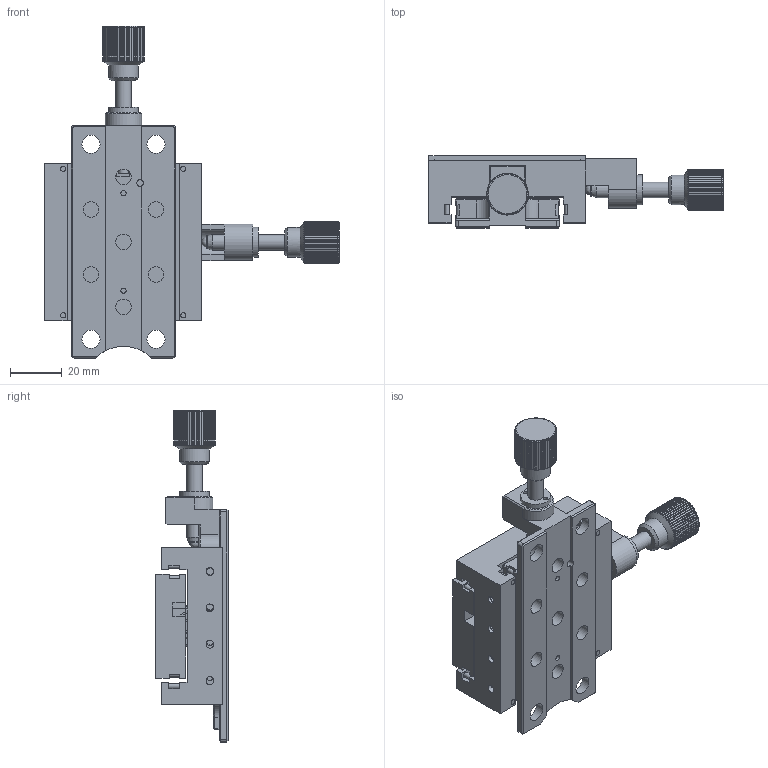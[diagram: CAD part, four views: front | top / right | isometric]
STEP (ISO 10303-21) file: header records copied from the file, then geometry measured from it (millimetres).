
FILE_DESCRIPTION (( 'STEP AP203' ), '1' );
FILE_NAME ('TCM60XY-05A-L.step', '2017-01-10T09:14:56', ( '¦K¬P' ), ( '' ), 'SwSTEP 2.0', 'SolidWorks 2012', '' );
FILE_SCHEMA (( 'CONFIG_CONTROL_DESIGN' ));
Length unit declared in the file: millimetre
Products named in the file (1): TCM60XY-05A-L
Bounding box: 113.3 x 27.8 x 127.7 mm (x, y, z)
Surface area: 44070.5 mm2 (no closed solid volume)
Topology: 0 solids, 39 shells, 663 faces, 1992 edges, 1330 vertices
Faces by surface type: plane 431, cylinder 201, cone 27, torus 2, sphere 2
Full cylindrical faces by diameter (mm): 1.7 x4, 2 x23, 2.05 x1, 2.5 x2, 3 x11, 3.3 x2, 4 x1, 5 x2, 6 x16, 7 x4, 9.5 x1, 10 x1, 11.4 x2, 11.5 x2
Entity records: 22893 total; most frequent: CARTESIAN_POINT 5804, ORIENTED_EDGE 3517, DIRECTION 3259, EDGE_CURVE 1878, VERTEX_POINT 1310, AXIS2_PLACEMENT_3D 1165, VECTOR 929, LINE 929
